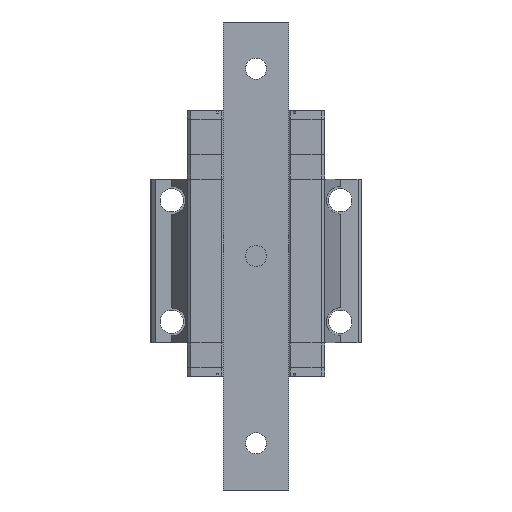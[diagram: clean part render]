
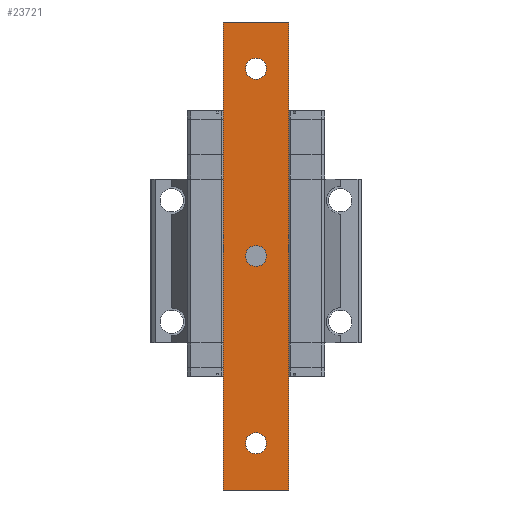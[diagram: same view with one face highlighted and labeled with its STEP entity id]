
A CAD part, front view. The second image highlights one B-rep face of the part: STEP entity #23721.
In plain terms, the highlighted planar face has unit normal (0, -1, 0).
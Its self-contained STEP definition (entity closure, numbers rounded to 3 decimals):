
#107 = AXIS2_PLACEMENT_3D ( 'NONE', #17262, #22262, #4756 ) ;
#516 = AXIS2_PLACEMENT_3D ( 'NONE', #21337, #1947, #4378 ) ;
#526 = ORIENTED_EDGE ( 'NONE', *, *, #19430, .T. ) ;
#541 = LINE ( 'NONE', #13144, #14267 ) ;
#926 = CARTESIAN_POINT ( 'NONE',  ( 14., -5.5, -100. ) ) ;
#1870 = ORIENTED_EDGE ( 'NONE', *, *, #19295, .T. ) ;
#1947 = DIRECTION ( 'NONE',  ( 0., -1., 0. ) ) ;
#2423 = DIRECTION ( 'NONE',  ( 0., 1., 0. ) ) ;
#2546 = ORIENTED_EDGE ( 'NONE', *, *, #9451, .T. ) ;
#2949 = EDGE_CURVE ( 'NONE', #14115, #13916, #8988, .T. ) ;
#2970 = ORIENTED_EDGE ( 'NONE', *, *, #28171, .T. ) ;
#3790 = CIRCLE ( 'NONE', #5929, 4.5 ) ;
#4101 = ORIENTED_EDGE ( 'NONE', *, *, #2949, .T. ) ;
#4378 = DIRECTION ( 'NONE',  ( 1., 0., 0. ) ) ;
#4525 = DIRECTION ( 'NONE',  ( 0., 0., 1. ) ) ;
#4566 = EDGE_CURVE ( 'NONE', #17476, #11432, #11136, .T. ) ;
#4756 = DIRECTION ( 'NONE',  ( 0., 0., 1. ) ) ;
#4973 = CARTESIAN_POINT ( 'NONE',  ( 0., -5.5, -84.5 ) ) ;
#5142 = CARTESIAN_POINT ( 'NONE',  ( 0., -5.5, -80. ) ) ;
#5194 = ORIENTED_EDGE ( 'NONE', *, *, #8748, .F. ) ;
#5368 = DIRECTION ( 'NONE',  ( 0., 0., 1. ) ) ;
#5414 = AXIS2_PLACEMENT_3D ( 'NONE', #14768, #29172, #4525 ) ;
#5564 = EDGE_LOOP ( 'NONE', ( #1870, #6549 ) ) ;
#5929 = AXIS2_PLACEMENT_3D ( 'NONE', #10283, #30215, #5368 ) ;
#6549 = ORIENTED_EDGE ( 'NONE', *, *, #25673, .T. ) ;
#7233 = FACE_BOUND ( 'NONE', #29472, .T. ) ;
#7316 = CARTESIAN_POINT ( 'NONE',  ( -14., -5.5, -100. ) ) ;
#7844 = VERTEX_POINT ( 'NONE', #4973 ) ;
#8230 = LINE ( 'NONE', #7316, #10162 ) ;
#8748 = EDGE_CURVE ( 'NONE', #14867, #28426, #8230, .T. ) ;
#8988 = LINE ( 'NONE', #926, #20819 ) ;
#9451 = EDGE_CURVE ( 'NONE', #11432, #17476, #13382, .T. ) ;
#9484 = CARTESIAN_POINT ( 'NONE',  ( 14., -5.5, 100. ) ) ;
#10162 = VECTOR ( 'NONE', #16933, 1000. ) ;
#10283 = CARTESIAN_POINT ( 'NONE',  ( 0., -5.5, 80. ) ) ;
#10327 = EDGE_LOOP ( 'NONE', ( #2546, #31633 ) ) ;
#11116 = PLANE ( 'NONE',  #516 ) ;
#11136 = CIRCLE ( 'NONE', #5414, 4.5 ) ;
#11419 = FACE_OUTER_BOUND ( 'NONE', #18846, .T. ) ;
#11432 = VERTEX_POINT ( 'NONE', #28190 ) ;
#11482 = AXIS2_PLACEMENT_3D ( 'NONE', #19235, #14360, #31198 ) ;
#13144 = CARTESIAN_POINT ( 'NONE',  ( -14., -5.5, 100. ) ) ;
#13382 = CIRCLE ( 'NONE', #11482, 4.5 ) ;
#13714 = FACE_BOUND ( 'NONE', #10327, .T. ) ;
#13916 = VERTEX_POINT ( 'NONE', #9484 ) ;
#13932 = VERTEX_POINT ( 'NONE', #31677 ) ;
#14115 = VERTEX_POINT ( 'NONE', #19492 ) ;
#14267 = VECTOR ( 'NONE', #25470, 1000. ) ;
#14360 = DIRECTION ( 'NONE',  ( 0., 1., 0. ) ) ;
#14549 = CARTESIAN_POINT ( 'NONE',  ( -14., -5.5, -100. ) ) ;
#14768 = CARTESIAN_POINT ( 'NONE',  ( 0., -5.5, 0. ) ) ;
#14867 = VERTEX_POINT ( 'NONE', #18334 ) ;
#15859 = VERTEX_POINT ( 'NONE', #22059 ) ;
#16020 = EDGE_CURVE ( 'NONE', #28426, #13916, #541, .T. ) ;
#16067 = ORIENTED_EDGE ( 'NONE', *, *, #16670, .T. ) ;
#16405 = CIRCLE ( 'NONE', #16898, 4.5 ) ;
#16670 = EDGE_CURVE ( 'NONE', #7844, #30672, #17253, .T. ) ;
#16898 = AXIS2_PLACEMENT_3D ( 'NONE', #31741, #2423, #19479 ) ;
#16933 = DIRECTION ( 'NONE',  ( 0., 0., 1. ) ) ;
#17253 = CIRCLE ( 'NONE', #27700, 4.5 ) ;
#17262 = CARTESIAN_POINT ( 'NONE',  ( 0., -5.5, 80. ) ) ;
#17476 = VERTEX_POINT ( 'NONE', #26730 ) ;
#17917 = FACE_BOUND ( 'NONE', #5564, .T. ) ;
#18078 = LINE ( 'NONE', #14549, #24993 ) ;
#18334 = CARTESIAN_POINT ( 'NONE',  ( -14., -5.5, -100. ) ) ;
#18372 = CARTESIAN_POINT ( 'NONE',  ( 0., -5.5, -75.5 ) ) ;
#18846 = EDGE_LOOP ( 'NONE', ( #4101, #23131, #5194, #2970 ) ) ;
#19235 = CARTESIAN_POINT ( 'NONE',  ( 0., -5.5, 0. ) ) ;
#19295 = EDGE_CURVE ( 'NONE', #13932, #15859, #3790, .T. ) ;
#19430 = EDGE_CURVE ( 'NONE', #30672, #7844, #16405, .T. ) ;
#19479 = DIRECTION ( 'NONE',  ( 0., 0., 1. ) ) ;
#19492 = CARTESIAN_POINT ( 'NONE',  ( 14., -5.5, -100. ) ) ;
#19556 = DIRECTION ( 'NONE',  ( 0., 1., 0. ) ) ;
#20819 = VECTOR ( 'NONE', #25031, 1000. ) ;
#21337 = CARTESIAN_POINT ( 'NONE',  ( -14., -5.5, -100. ) ) ;
#22059 = CARTESIAN_POINT ( 'NONE',  ( 0., -5.5, 75.5 ) ) ;
#22262 = DIRECTION ( 'NONE',  ( 0., 1., 0. ) ) ;
#23131 = ORIENTED_EDGE ( 'NONE', *, *, #16020, .F. ) ;
#23454 = CIRCLE ( 'NONE', #107, 4.5 ) ;
#23721 = ADVANCED_FACE ( 'NONE', ( #7233, #13714, #17917, #11419 ), #11116, .T. ) ;
#24406 = DIRECTION ( 'NONE',  ( 1., 0., 0. ) ) ;
#24993 = VECTOR ( 'NONE', #24406, 1000. ) ;
#25031 = DIRECTION ( 'NONE',  ( 0., 0., 1. ) ) ;
#25470 = DIRECTION ( 'NONE',  ( 1., 0., 0. ) ) ;
#25673 = EDGE_CURVE ( 'NONE', #15859, #13932, #23454, .T. ) ;
#26632 = CARTESIAN_POINT ( 'NONE',  ( -14., -5.5, 100. ) ) ;
#26730 = CARTESIAN_POINT ( 'NONE',  ( 0., -5.5, -4.5 ) ) ;
#27662 = DIRECTION ( 'NONE',  ( 0., 0., 1. ) ) ;
#27700 = AXIS2_PLACEMENT_3D ( 'NONE', #5142, #19556, #27662 ) ;
#28171 = EDGE_CURVE ( 'NONE', #14867, #14115, #18078, .T. ) ;
#28190 = CARTESIAN_POINT ( 'NONE',  ( 0., -5.5, 4.5 ) ) ;
#28426 = VERTEX_POINT ( 'NONE', #26632 ) ;
#29172 = DIRECTION ( 'NONE',  ( 0., 1., 0. ) ) ;
#29472 = EDGE_LOOP ( 'NONE', ( #526, #16067 ) ) ;
#30215 = DIRECTION ( 'NONE',  ( 0., 1., 0. ) ) ;
#30672 = VERTEX_POINT ( 'NONE', #18372 ) ;
#31198 = DIRECTION ( 'NONE',  ( 0., 0., 1. ) ) ;
#31633 = ORIENTED_EDGE ( 'NONE', *, *, #4566, .T. ) ;
#31677 = CARTESIAN_POINT ( 'NONE',  ( 0., -5.5, 84.5 ) ) ;
#31741 = CARTESIAN_POINT ( 'NONE',  ( 0., -5.5, -80. ) ) ;
